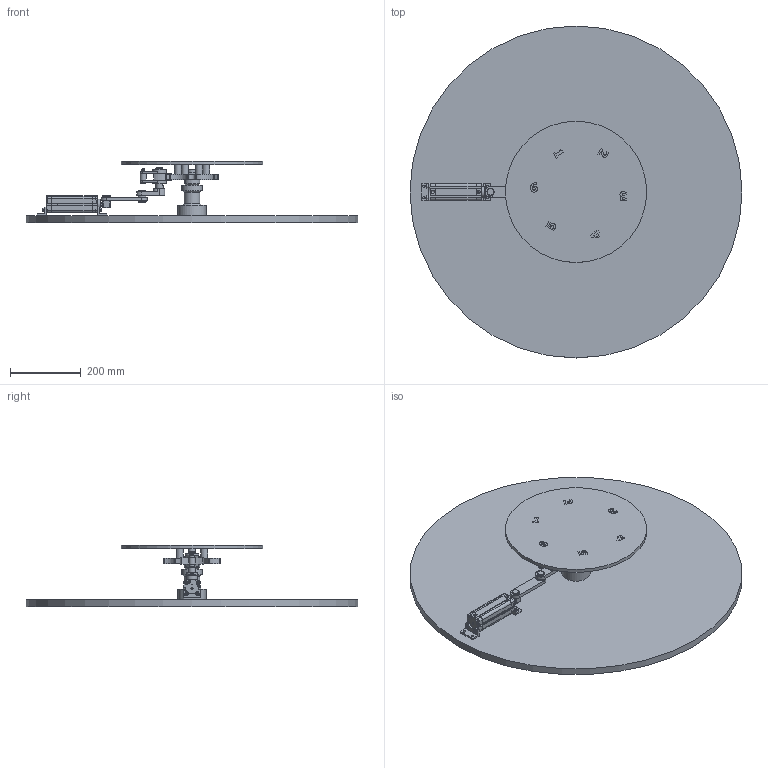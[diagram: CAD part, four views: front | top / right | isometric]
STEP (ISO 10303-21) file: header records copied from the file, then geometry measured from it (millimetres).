
FILE_DESCRIPTION(/* description */ (''),/* implementation_level */ '2;1');
FILE_NAME(/* name */ 'Assieme croce malta.stp',/* time_stamp */ '2025-10-29T16:54:20+01:00',/* author */ ('R5800u'),/* organization */ (''),/* preprocessor_version */ 'ST-DEVELOPER v20',/* originating_system */ 'Autodesk Inventor 2025',/* authorisation */ '');
FILE_SCHEMA (('AUTOMOTIVE_DESIGN { 1 0 10303 214 3 1 1 }'));
Length unit declared in the file: millimetre
Products named in the file (25): Assieme bielletta; bielletta; perno; nottolino; bronzina; anello; perno2; croce di malta; perno3; 2300320100FP_0-GA-M-0-A-0-0_B; 230-32-CMPC2F-HF; 230-32/100-CMPC2F-BR; 230-32-CMPC2F-HR; W0950322001-25_; Cylinder head screw DIN 912 M6x16; 230-32/100-CMPC2F-PR; biella; manovella; testa_stelo; perno4; ANSI B 27.7M - 3AMI-18; AS 1236 - 1,6 x  12; tavolo; BS 292: Parte 1 - 7005 - 25 x 47 x 12; tavolo_mobile
Assembly tree (30 placements, depth 3):
  Assieme bielletta
    bielletta
    perno
    nottolino
    bronzina
    anello
    perno2
    croce di malta
    perno3
    2300320100FP_0-GA-M-0-A-0-0_B
      230-32-CMPC2F-HF
      230-32/100-CMPC2F-BR
      230-32-CMPC2F-HR
      W0950322001-25_  x2
      Cylinder head screw DIN 912 M6x16  x4
      230-32/100-CMPC2F-PR
    biella
    manovella
    testa_stelo
    perno4
    ANSI B 27.7M - 3AMI-18  x3
    AS 1236 - 1,6 x  12
    tavolo
    BS 292: Parte 1 - 7005 - 25 x 47 x 12
    tavolo_mobile
Bounding box: 940 x 940 x 174.3 mm (x, y, z)
Volume: 16019820.1 mm3; surface area: 1962362.3 mm2
Topology: 40 solids, 40 shells, 1069 faces, 2761 edges, 1819 vertices
Faces by surface type: plane 510, cylinder 405, bspline 63, cone 39, torus 38, sphere 14
Full cylindrical faces by diameter (mm): 2 x7, 3 x2, 4.917 x9, 6 x5, 6.5 x2, 6.6 x8, 6.647 x12, 7 x8, 7.6 x8, 7.691 x1, 8 x8, 8.566 x2, 9 x8, 10 x5, 10.5 x1, 12 x1, 13 x2, 15 x1, 18 x4, 20 x17, 24 x1, 25 x3, 28 x1, 30 x1, 32 x2, 32.172 x2, 39 x2, 39.828 x1, 44 x1, 45 x2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
Entity records: 31358 total; most frequent: CARTESIAN_POINT 6324, DIRECTION 5104, ORIENTED_EDGE 4946, EDGE_CURVE 2473, AXIS2_PLACEMENT_3D 1846, VERTEX_POINT 1679, LINE 1412, VECTOR 1412
